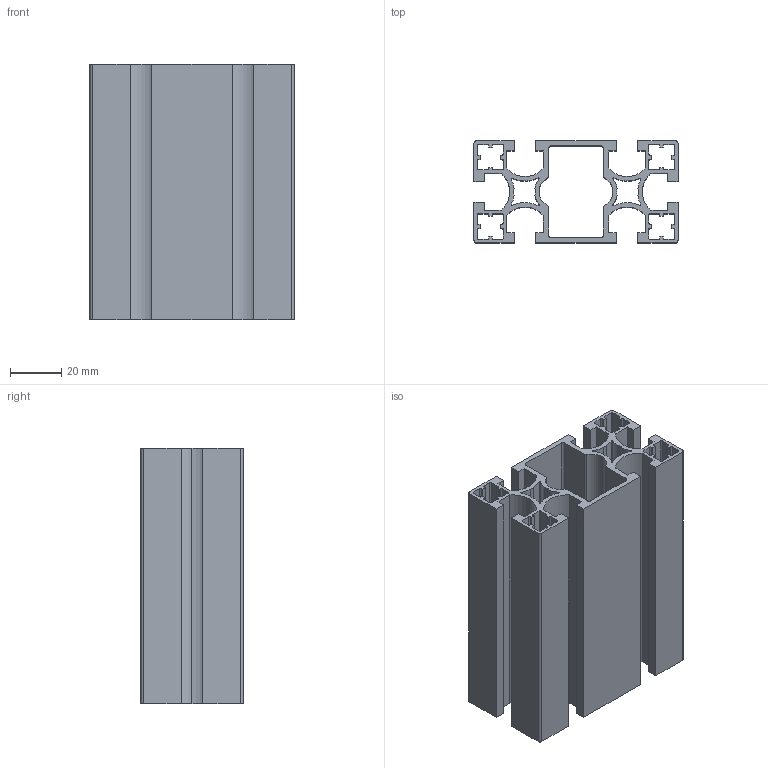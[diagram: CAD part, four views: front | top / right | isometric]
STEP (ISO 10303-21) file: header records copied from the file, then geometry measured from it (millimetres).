
FILE_DESCRIPTION (( 'STEP AP203' ), '1' );
FILE_NAME ('WS4080A-8.STEP', '2024-02-19T05:07:26', ( '' ), ( '' ), 'SwSTEP 2.0', 'SolidWorks 2022', '' );
FILE_SCHEMA (( 'CONFIG_CONTROL_DESIGN' ));
Length unit declared in the file: millimetre
Products named in the file (1): WS4080A-8
Bounding box: 80 x 40 x 100 mm (x, y, z)
Volume: 83522.1 mm3; surface area: 86576.4 mm2
Topology: 1 solids, 1 shells, 246 faces, 732 edges, 488 vertices
Faces by surface type: cylinder 128, plane 118
Entity records: 8437 total; most frequent: DIRECTION 1482, CARTESIAN_POINT 1467, ORIENTED_EDGE 1464, EDGE_CURVE 732, AXIS2_PLACEMENT_3D 503, VERTEX_POINT 488, LINE 476, VECTOR 476
